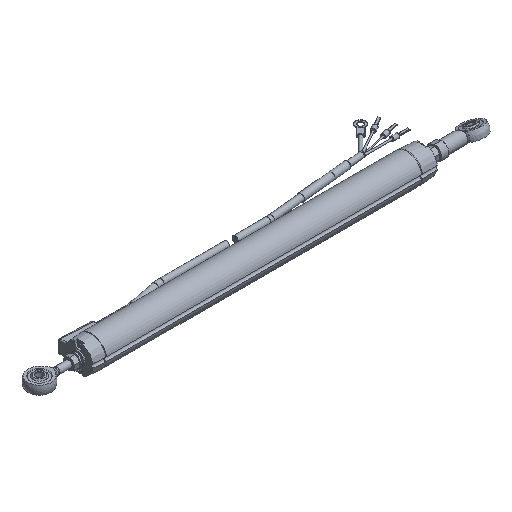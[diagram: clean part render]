
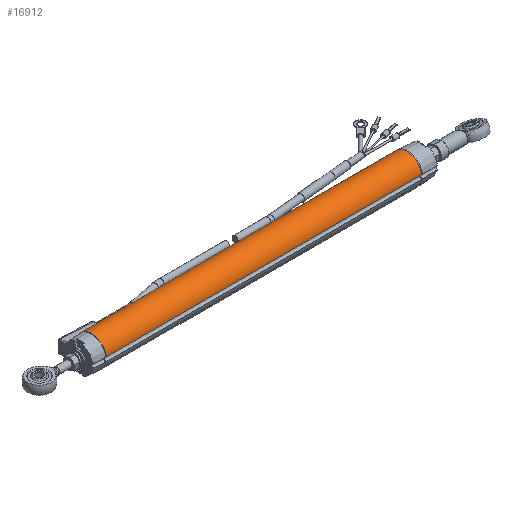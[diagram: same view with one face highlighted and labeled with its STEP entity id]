
A CAD part, isometric view. The second image highlights one B-rep face of the part: STEP entity #16912.
In plain terms, the highlighted cylindrical face has radius 11 mm (diameter 22 mm), a partial arc.
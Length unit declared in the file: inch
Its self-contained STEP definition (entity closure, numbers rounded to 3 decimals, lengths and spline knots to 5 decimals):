
#2116=FACE_OUTER_BOUND('',#2883,.T.);
#2883=EDGE_LOOP('',(#10645,#10646,#10647,#10648));
#3707=LINE('',#23164,#4329);
#3708=LINE('',#23170,#4330);
#4329=VECTOR('',#19681,0.3937);
#4330=VECTOR('',#19688,0.3937);
#4936=CIRCLE('',#18008,0.43307);
#4937=CIRCLE('',#18009,0.43307);
#5595=VERTEX_POINT('',#23161);
#5596=VERTEX_POINT('',#23163);
#5597=VERTEX_POINT('',#23167);
#5598=VERTEX_POINT('',#23169);
#7719=EDGE_CURVE('',#5596,#5595,#3707,.T.);
#7721=EDGE_CURVE('',#5595,#5597,#4936,.T.);
#7722=EDGE_CURVE('',#5598,#5597,#3708,.T.);
#7723=EDGE_CURVE('',#5598,#5596,#4937,.T.);
#10645=ORIENTED_EDGE('',*,*,#7721,.T.);
#10646=ORIENTED_EDGE('',*,*,#7722,.F.);
#10647=ORIENTED_EDGE('',*,*,#7723,.T.);
#10648=ORIENTED_EDGE('',*,*,#7719,.T.);
#15719=CYLINDRICAL_SURFACE('',#18007,0.43307);
#16912=ADVANCED_FACE('',(#2116),#15719,.T.);
#18007=AXIS2_PLACEMENT_3D('',#23166,#19684,#19685);
#18008=AXIS2_PLACEMENT_3D('',#23168,#19686,#19687);
#18009=AXIS2_PLACEMENT_3D('',#23171,#19689,#19690);
#19681=DIRECTION('',(1.,0.,0.));
#19684=DIRECTION('center_axis',(1.,0.,0.));
#19685=DIRECTION('ref_axis',(0.,0.99,0.139));
#19686=DIRECTION('center_axis',(-1.,0.,0.));
#19687=DIRECTION('ref_axis',(0.,0.99,0.139));
#19688=DIRECTION('',(1.,0.,0.));
#19689=DIRECTION('center_axis',(1.,0.,0.));
#19690=DIRECTION('ref_axis',(0.,0.99,0.139));
#23161=CARTESIAN_POINT('',(9.31,-0.42889,0.06));
#23163=CARTESIAN_POINT('',(0.15276,-0.42889,0.06));
#23164=CARTESIAN_POINT('',(0.15276,-0.42889,0.06));
#23166=CARTESIAN_POINT('Origin',(0.15276,0.,0.));
#23167=CARTESIAN_POINT('',(9.31,0.42889,0.06));
#23168=CARTESIAN_POINT('Origin',(9.31,0.,0.));
#23169=CARTESIAN_POINT('',(0.15276,0.42889,0.06));
#23170=CARTESIAN_POINT('',(0.15276,0.42889,0.06));
#23171=CARTESIAN_POINT('Origin',(0.15276,0.,0.));
